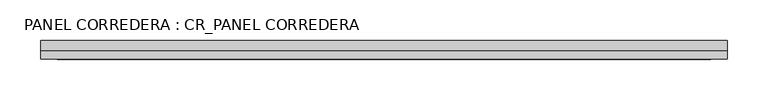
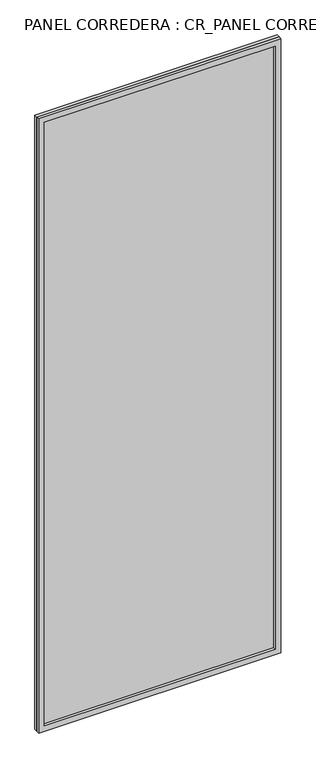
"""IFC4 building model written with IfcOpenShell, lengths in millimetres: plate geometry, PANEL CORREDERA : CR_PANEL CORREDERA."""

from ifc_helpers import new_model, si_unit, frame, origin, origin_with_axes, place, context, project, spatial, polyline, outline, extrude, source, transform, mapped, element, save


def panel_corredera_cr_panel_corredera_0e7ff004(model_context):
    return source(origin(), model_context, "Body", "SweptSolid", [
        extrude(outline(polyline([(2250.0, -344.5664968), (0.0, -344.5664968), (0.0, 494.5664968), (2250.0, 494.5664968), (2250.0, -344.5664968)]), holes=[polyline([(2230.0, -324.5664968), (2230.0, 474.5664968), (20.0, 474.5664968), (20.0, -324.5664968), (2230.0, -324.5664968)])]), frame((0.0, 20.0, 0.0), z_axis=(0.0, 1.0, 0.0), x_axis=(0.0, 0.0, 1.0)), (0.0, 0.0, 1.0), 10.0),
        extrude(outline(polyline([(494.5664968, 30.0), (-344.5664968, 30.0), (-344.5664968, 42.5), (494.5664968, 42.5), (494.5664968, 30.0)])), origin_with_axes(), (0.0, 0.0, 1.0), 2250.0),
    ])


if __name__ == "__main__":
    model = new_model("IFC4")
    model_context = context("Model", 3, world=origin())
    ifc_project = project(units=[si_unit("LENGTHUNIT", "METRE", prefix="MILLI")], contexts=[model_context])
    site = spatial("IfcSite", under=ifc_project)
    building = spatial("IfcBuilding", under=site)
    placement = place(None, origin())
    panel_corredera_cr_panel_corredera_shape = panel_corredera_cr_panel_corredera_0e7ff004(model_context)
    element("IfcPlate", 1, ObjectType="PANEL CORREDERA : CR_PANEL CORREDERA", at=placement, inside=building, context=model_context, shape_type="MappedRepresentation", body=[
        mapped(panel_corredera_cr_panel_corredera_shape, transform((0.0, 0.0, 0.0), x_axis=(1.0, 0.0, 0.0), y_axis=(0.0, 1.0, 0.0), z_axis=(0.0, 0.0, 1.0))),
    ])
    save(model, "model.ifc")
